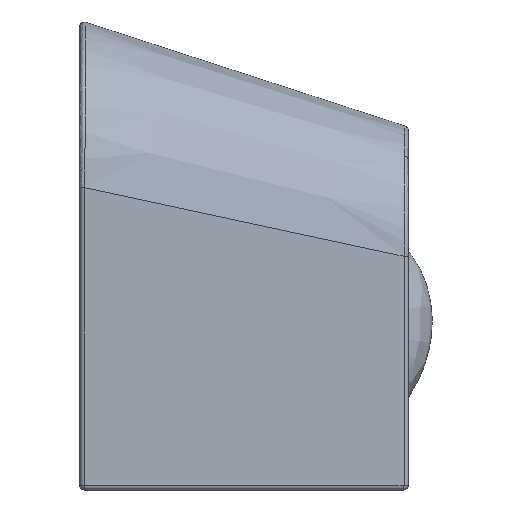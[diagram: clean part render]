
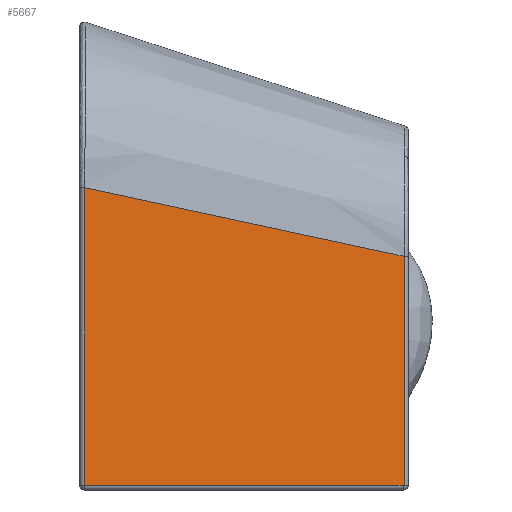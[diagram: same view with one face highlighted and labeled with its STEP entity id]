
A CAD part, left-side view. The second image highlights one B-rep face of the part: STEP entity #5667.
In plain terms, the highlighted planar face has unit normal (-0.995, -0.104, 0).
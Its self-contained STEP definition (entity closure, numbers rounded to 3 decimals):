
#167=DIRECTION('',(0.105,-0.995,0.));
#168=VECTOR('',#167,351.928);
#169=CARTESIAN_POINT('',(-179.42,354.477,-252.5));
#170=LINE('',#169,#168);
#171=DIRECTION('',(0.,0.,1.));
#172=VECTOR('',#171,326.568);
#173=CARTESIAN_POINT('',(-179.42,354.477,-252.5));
#174=LINE('',#173,#172);
#175=DIRECTION('',(0.102,-0.972,-0.21));
#176=VECTOR('',#175,359.917);
#177=CARTESIAN_POINT('',(-179.42,354.477,74.068));
#178=LINE('',#177,#176);
#179=DIRECTION('',(0.,0.,-1.));
#180=VECTOR('',#179,251.155);
#181=CARTESIAN_POINT('',(-142.633,4.477,-1.345));
#182=LINE('',#181,#180);
#646=CARTESIAN_POINT('',(-142.633,4.477,-1.345));
#648=CARTESIAN_POINT('',(-179.42,354.477,74.068));
#5175=VERTEX_POINT('',#648);
#5179=VERTEX_POINT('',#646);
#5187=CARTESIAN_POINT('',(-179.42,354.477,-252.5));
#5189=VERTEX_POINT('',#5187);
#5190=CARTESIAN_POINT('',(-142.633,4.477,-252.5));
#5191=VERTEX_POINT('',#5190);
#5654=CARTESIAN_POINT('',(-180.,360.,-267.19));
#5655=DIRECTION('',(-0.995,-0.105,0.));
#5656=DIRECTION('',(0.,0.,1.));
#5657=AXIS2_PLACEMENT_3D('',#5654,#5655,#5656);
#5658=PLANE('',#5657);
#5659=ORIENTED_EDGE('',*,*,#5644,.F.);
#5661=ORIENTED_EDGE('',*,*,#5660,.T.);
#5663=ORIENTED_EDGE('',*,*,#5662,.T.);
#5664=ORIENTED_EDGE('',*,*,#5620,.T.);
#5665=EDGE_LOOP('',(#5659,#5661,#5663,#5664));
#5666=FACE_OUTER_BOUND('',#5665,.F.);
#5667=ADVANCED_FACE('',(#5666),#5658,.T.);
#5620=EDGE_CURVE('',#5179,#5191,#182,.T.);
#5644=EDGE_CURVE('',#5189,#5191,#170,.T.);
#5660=EDGE_CURVE('',#5189,#5175,#174,.T.);
#5662=EDGE_CURVE('',#5175,#5179,#178,.T.);
